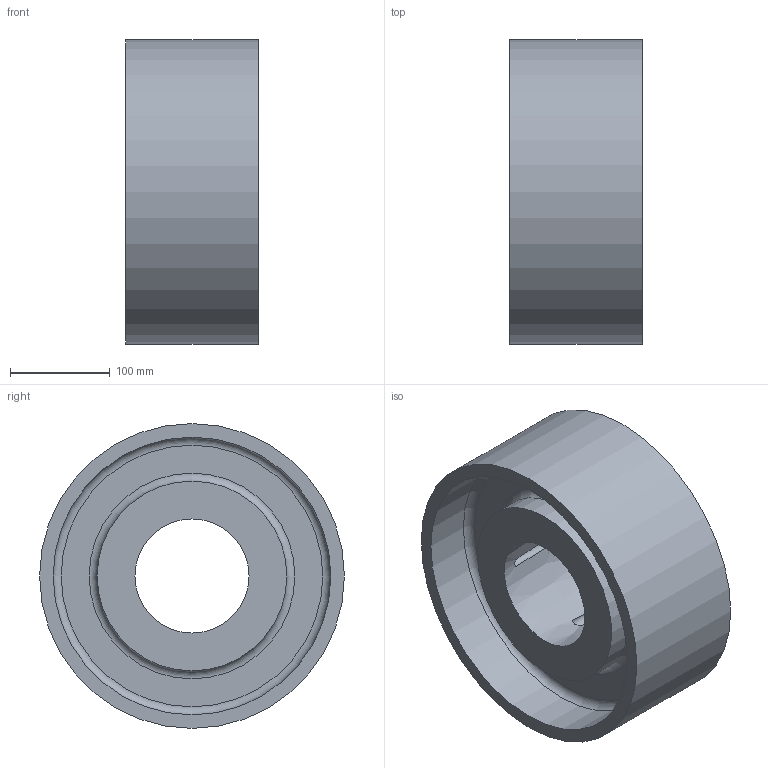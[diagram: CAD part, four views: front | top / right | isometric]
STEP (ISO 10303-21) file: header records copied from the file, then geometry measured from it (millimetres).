
FILE_DESCRIPTION(/* description */ (''),/* implementation_level */ '2;1');
FILE_NAME(/* name */ 'C:\Users\stagistaCAD\Desktop\41690072.stp',/* time_stamp */ '2018-06-21T10:18:15+02:00',/* author */ ('stagistacad'),/* organization */ (''),/* preprocessor_version */ 'ST-DEVELOPER v15.6',/* originating_system */ 'Autodesk Inventor 2015',/* authorisation */ '');
FILE_SCHEMA (('AUTOMOTIVE_DESIGN { 1 0 10303 214 3 1 1 }'));
Length unit declared in the file: millimetre
Products named in the file (1): 41690072
Bounding box: 133 x 305.26 x 305.26 mm (x, y, z)
Volume: 3994577 mm3; surface area: 410083.4 mm2
Topology: 1 solids, 1 shells, 32 faces, 84 edges, 53 vertices
Faces by surface type: cylinder 13, plane 9, cone 6, torus 4
Full cylindrical faces by diameter (mm): 190 x2, 278 x2, 305.26 x1
Entity records: 1012 total; most frequent: CARTESIAN_POINT 300, DIRECTION 150, ORIENTED_EDGE 126, AXIS2_PLACEMENT_3D 75, EDGE_CURVE 63, EDGE_LOOP 48, VERTEX_POINT 47, CIRCLE 42
